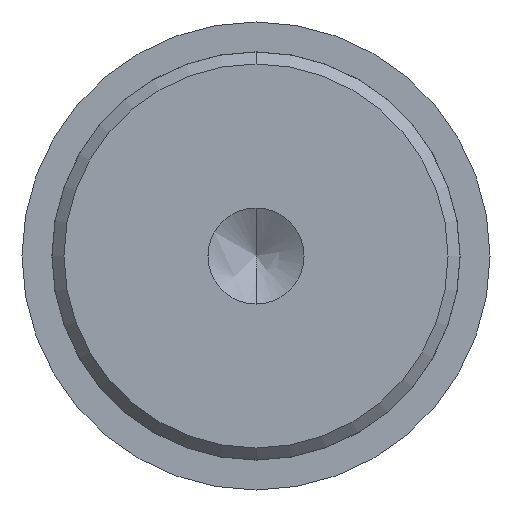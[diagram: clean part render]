
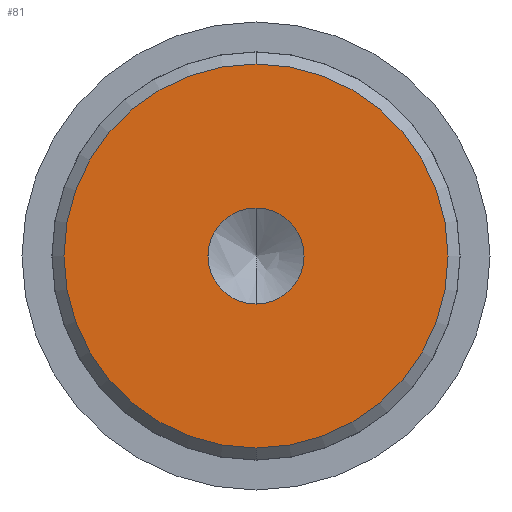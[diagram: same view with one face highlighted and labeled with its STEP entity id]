
A CAD part, left-side view. The second image highlights one B-rep face of the part: STEP entity #81.
In plain terms, the highlighted free-form (B-spline) face has degree [1, 1] with [2, 2] control points.
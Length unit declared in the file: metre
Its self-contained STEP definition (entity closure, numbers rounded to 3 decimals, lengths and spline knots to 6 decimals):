
#81 = ADVANCED_FACE( '', ( #116, #117 ), #118, .T. );
#116 = FACE_BOUND( '', #186, .T. );
#117 = FACE_OUTER_BOUND( '', #187, .T. );
#118 = B_SPLINE_SURFACE_WITH_KNOTS( '', 1, 1, ( ( #188, #189 ), ( #190, #191 ) ), .UNSPECIFIED., .F., .F., .F., ( 2, 2 ), ( 2, 2 ), ( 0., 1. ), ( 0., 1. ), .UNSPECIFIED. );
#186 = EDGE_LOOP( '', ( #345, #346 ) );
#187 = EDGE_LOOP( '', ( #347, #348 ) );
#188 = CARTESIAN_POINT( '', ( -0.134, -0.016192, -0.016192 ) );
#189 = CARTESIAN_POINT( '', ( -0.134, 0.016192, -0.016192 ) );
#190 = CARTESIAN_POINT( '', ( -0.134, -0.016192, 0.016192 ) );
#191 = CARTESIAN_POINT( '', ( -0.134, 0.016192, 0.016192 ) );
#345 = ORIENTED_EDGE( '', *, *, #522, .T. );
#346 = ORIENTED_EDGE( '', *, *, #520, .T. );
#347 = ORIENTED_EDGE( '', *, *, #523, .T. );
#348 = ORIENTED_EDGE( '', *, *, #524, .T. );
#520 = EDGE_CURVE( '', #582, #580, #583, .T. );
#522 = EDGE_CURVE( '', #580, #582, #585, .T. );
#523 = EDGE_CURVE( '', #586, #587, #588, .F. );
#524 = EDGE_CURVE( '', #587, #586, #589, .F. );
#580 = VERTEX_POINT( '', #673 );
#582 = VERTEX_POINT( '', #676 );
#583 = CIRCLE( '', #677, 0.004 );
#585 = CIRCLE( '', #680, 0.004 );
#586 = VERTEX_POINT( '', #681 );
#587 = VERTEX_POINT( '', #682 );
#588 = CIRCLE( '', #683, 0.016 );
#589 = CIRCLE( '', #684, 0.016 );
#673 = CARTESIAN_POINT( '', ( -0.134, 0., -0.004 ) );
#676 = CARTESIAN_POINT( '', ( -0.134, 0., 0.004 ) );
#677 = AXIS2_PLACEMENT_3D( '', #806, #807, #808 );
#680 = AXIS2_PLACEMENT_3D( '', #810, #811, #812 );
#681 = CARTESIAN_POINT( '', ( -0.134, 0., 0.016 ) );
#682 = CARTESIAN_POINT( '', ( -0.134, 0., -0.016 ) );
#683 = AXIS2_PLACEMENT_3D( '', #813, #814, #815 );
#684 = AXIS2_PLACEMENT_3D( '', #816, #817, #818 );
#806 = CARTESIAN_POINT( '', ( -0.134, 0., 0. ) );
#807 = DIRECTION( '', ( 1., 0., 0. ) );
#808 = DIRECTION( '', ( 0., 0., -1. ) );
#810 = CARTESIAN_POINT( '', ( -0.134, 0., 0. ) );
#811 = DIRECTION( '', ( 1., 0., 0. ) );
#812 = DIRECTION( '', ( 0., 0., -1. ) );
#813 = CARTESIAN_POINT( '', ( -0.134, 0., 0. ) );
#814 = DIRECTION( '', ( 1., 0., 0. ) );
#815 = DIRECTION( '', ( 0., 0., -1. ) );
#816 = CARTESIAN_POINT( '', ( -0.134, 0., 0. ) );
#817 = DIRECTION( '', ( 1., 0., 0. ) );
#818 = DIRECTION( '', ( 0., 0., -1. ) );
